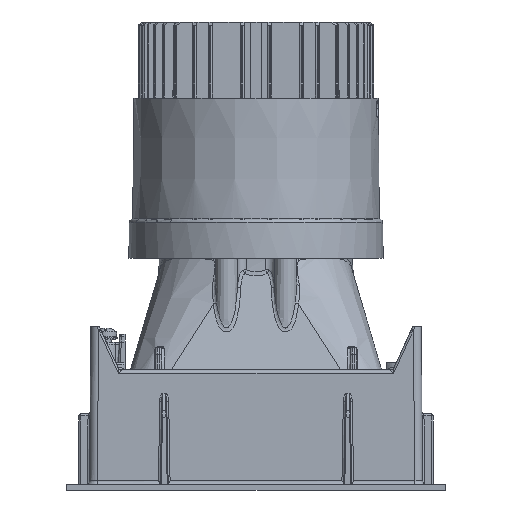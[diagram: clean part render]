
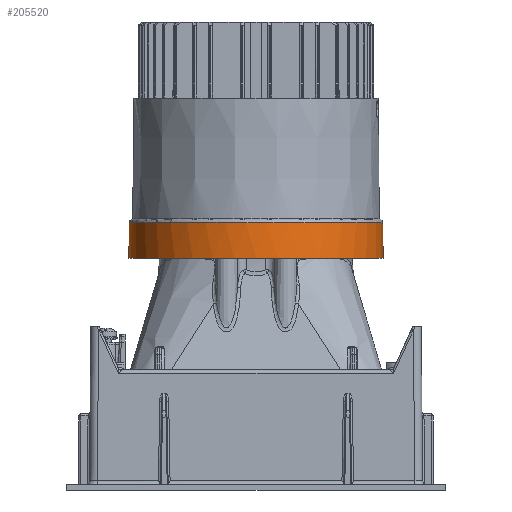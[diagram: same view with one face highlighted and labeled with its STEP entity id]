
A CAD part, left-side view. The second image highlights one B-rep face of the part: STEP entity #205520.
In plain terms, the highlighted conical face has half-angle 1 degrees and reference radius 32.221 mm.
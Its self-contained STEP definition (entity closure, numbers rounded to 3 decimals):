
#200634=CARTESIAN_POINT('Vertex',(0.,32.143,66.94)) ;
#201441=CARTESIAN_POINT('Vertex',(-10.595,30.346,66.94)) ;
#201444=CARTESIAN_POINT('Axis2P3D Location',(0.,0.,66.94)) ;
#201448=CARTESIAN_POINT('Vertex',(0.,-32.143,66.94)) ;
#205331=CARTESIAN_POINT('Vertex',(0.,32.3,57.923)) ;
#205333=CARTESIAN_POINT('Vertex',(0.,-32.3,57.923)) ;
#205336=CARTESIAN_POINT('Line Origine',(0.,8742.314,-498938.437)) ;
#205341=CARTESIAN_POINT('Line Origine',(0.,-8742.314,-498938.437)) ;
#205419=CARTESIAN_POINT('Axis2P3D Location',(0.,0.,66.94)) ;
#205503=CARTESIAN_POINT('Axis2P3D Location',(0.,0.,62.432)) ;
#205508=CARTESIAN_POINT('Axis2P3D Location',(0.,0.,57.923)) ;
#201445=DIRECTION('Axis2P3D Direction',(0.,-0.,-1.)) ;
#205337=DIRECTION('Vector Direction',(0.,0.017,-1.)) ;
#205342=DIRECTION('Vector Direction',(0.,-0.017,-1.)) ;
#205420=DIRECTION('Axis2P3D Direction',(0.,-0.,-1.)) ;
#205504=DIRECTION('Axis2P3D Direction',(0.,0.,-1.)) ;
#205505=DIRECTION('Axis2P3D XDirection',(0.,-1.,0.)) ;
#205509=DIRECTION('Axis2P3D Direction',(-0.,0.,-1.)) ;
#201446=AXIS2_PLACEMENT_3D('Circle Axis2P3D',#201444,#201445,$) ;
#205421=AXIS2_PLACEMENT_3D('Circle Axis2P3D',#205419,#205420,$) ;
#205506=AXIS2_PLACEMENT_3D('Cone Axis2P3D',#205503,#205504,#205505) ;
#205510=AXIS2_PLACEMENT_3D('Circle Axis2P3D',#205508,#205509,$) ;
#205514=ORIENTED_EDGE('',*,*,#205512,.F.) ;
#205515=ORIENTED_EDGE('',*,*,#205345,.T.) ;
#205516=ORIENTED_EDGE('',*,*,#201450,.F.) ;
#205517=ORIENTED_EDGE('',*,*,#205423,.F.) ;
#205518=ORIENTED_EDGE('',*,*,#205340,.F.) ;
#205338=VECTOR('Line Direction',#205337,1.) ;
#205343=VECTOR('Line Direction',#205342,1.) ;
#205520=ADVANCED_FACE('188\\MANIFOLD_SOLID_BREP #169640',(#205519),#205507,.T.) ;
#201447=CIRCLE('generated circle',#201446,32.143) ;
#205422=CIRCLE('generated circle',#205421,32.143) ;
#205511=CIRCLE('generated circle',#205510,32.3) ;
#205507=CONICAL_SURFACE('Cone',#205506,32.221,0.017) ;
#201450=EDGE_CURVE('',#201442,#201449,#201447,.F.) ;
#205340=EDGE_CURVE('',#205332,#200635,#205339,.F.) ;
#205345=EDGE_CURVE('',#205334,#201449,#205344,.F.) ;
#205423=EDGE_CURVE('',#200635,#201442,#205422,.F.) ;
#205512=EDGE_CURVE('',#205334,#205332,#205511,.T.) ;
#205513=EDGE_LOOP('',(#205514,#205515,#205516,#205517,#205518)) ;
#205519=FACE_OUTER_BOUND('',#205513,.T.) ;
#205339=LINE('Line',#205336,#205338) ;
#205344=LINE('Line',#205341,#205343) ;
#200635=VERTEX_POINT('',#200634) ;
#201442=VERTEX_POINT('',#201441) ;
#201449=VERTEX_POINT('',#201448) ;
#205332=VERTEX_POINT('',#205331) ;
#205334=VERTEX_POINT('',#205333) ;
